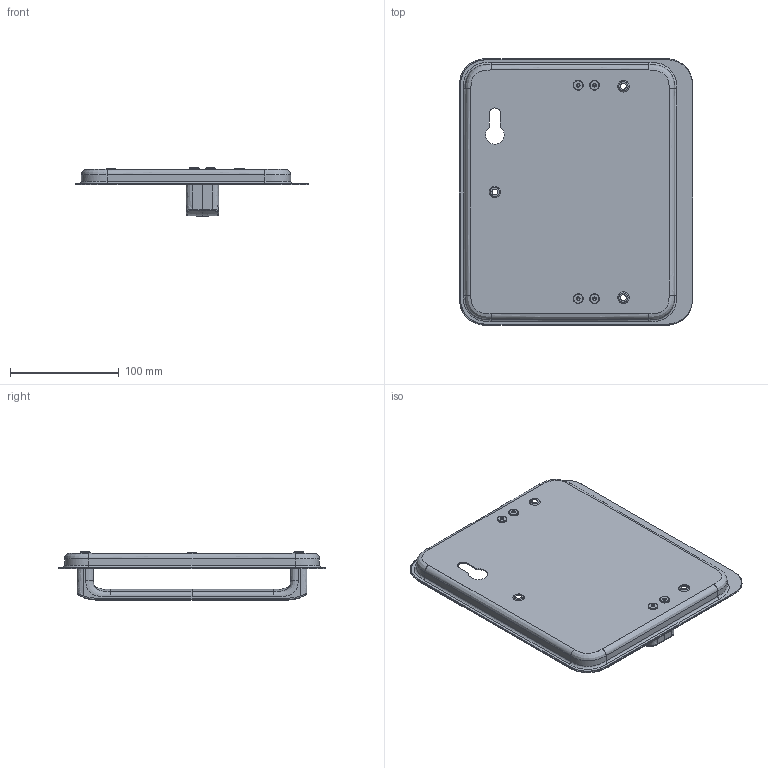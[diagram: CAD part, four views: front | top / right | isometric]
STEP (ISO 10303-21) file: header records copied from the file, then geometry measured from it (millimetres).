
FILE_DESCRIPTION(/* description */ (''),/* implementation_level */ '2;1');
FILE_NAME(/* name */ 'C:\ADSK_DMS_WS\Designs\Vorschläge\Loc Schalen\Heusser Muschel\Heusser-Muschel mit D6\Heusser-Muschel S9.13 mit D6\S9.13.D6.372R..stp',/* time_stamp */ '2025-04-14T09:25:28+02:00',/* author */ ('gm'),/* organization */ (''),/* preprocessor_version */ 'ST-DEVELOPER v17.2',/* originating_system */ 'Autodesk Inventor 2019',/* authorisation */ '');
FILE_SCHEMA (('AUTOMOTIVE_DESIGN { 1 0 10303 214 3 1 1 }'));
Length unit declared in the file: millimetre
Products named in the file (4): S9.13.D6.372R.; D6; M5x10 zu D6; Schale S9.13.R.D6
Assembly tree (6 placements, depth 2):
  S9.13.D6.372R.
    D6
    M5x10 zu D6  x4
    Schale S9.13.R.D6
Bounding box: 214 x 245 x 44.5 mm (x, y, z)
Volume: 141629.1 mm3; surface area: 142730.7 mm2
Topology: 6 solids, 6 shells, 397 faces, 1025 edges, 659 vertices
Faces by surface type: bspline 148, plane 129, cylinder 66, cone 50, torus 4
Full cylindrical faces by diameter (mm): 4.134 x4, 5 x4, 5.5 x4, 9 x4
Entity records: 21026 total; most frequent: CARTESIAN_POINT 14013, ORIENTED_EDGE 1626, DIRECTION 962, EDGE_CURVE 813, VERTEX_POINT 524, LINE 430, VECTOR 430, EDGE_LOOP 353
